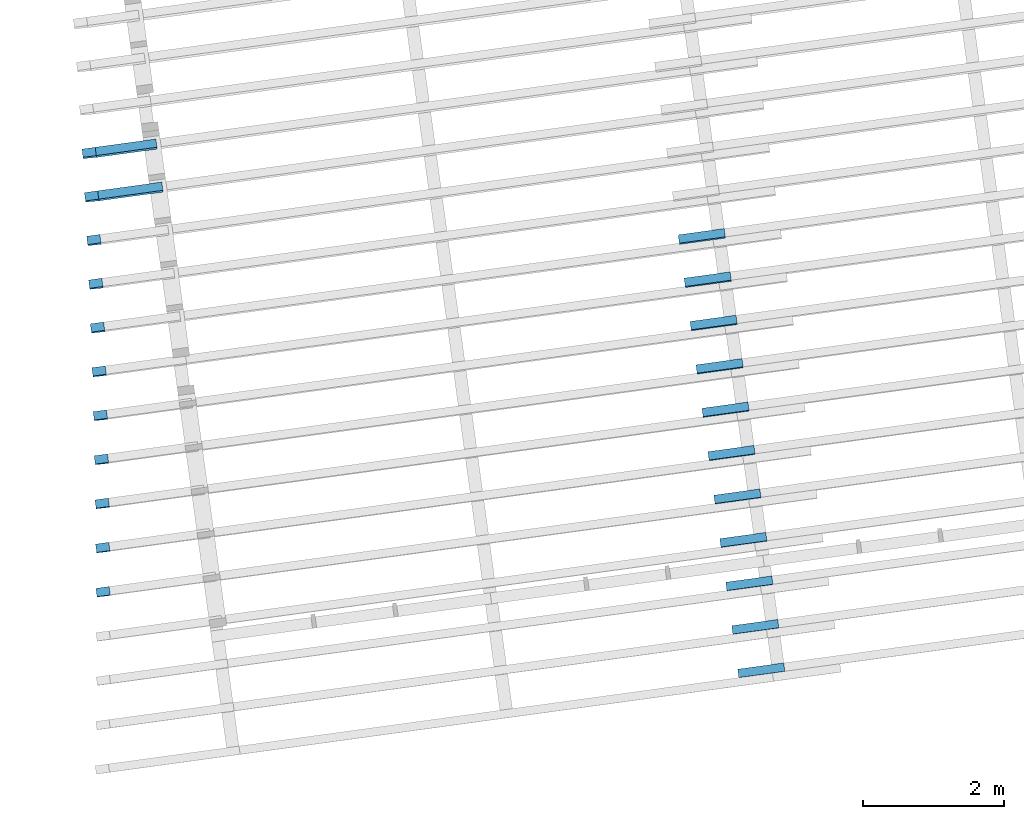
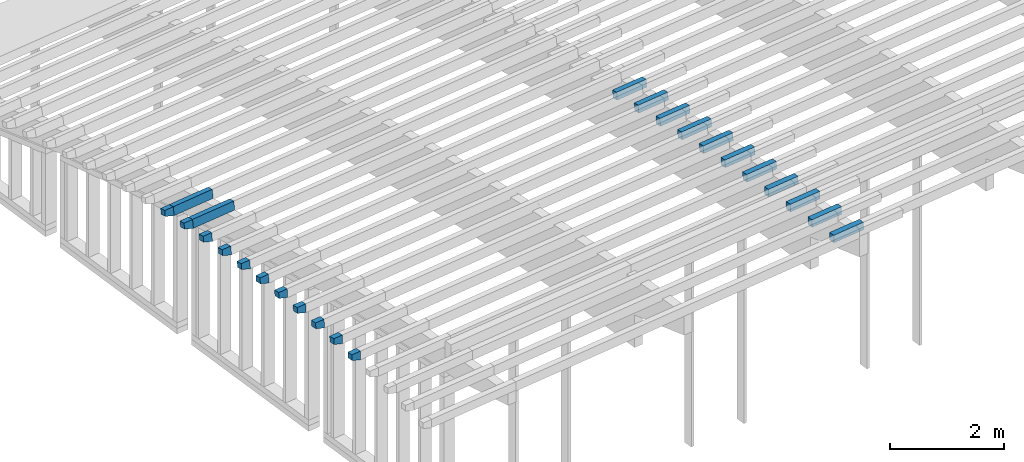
# One storey, part 14 of 18: 24 building element parts, 22 elements without a shape of their own.
"""IFC2X3 building model written with IfcOpenShell, lengths in metres."""

from ifc_helpers import new_model, entity, si_unit, converted_unit, derived_unit, money_unit, direction, frame, origin_with_axes, place, context, subcontext, project, spatial, faceted_brep, material, type_object, element, aggregate, save


model = new_model("IFC2X3")

# Units and contexts
model_context = context("Model", 3, precision=1e-05, world=origin_with_axes(), true_north=direction((0.0, 1.0)))
body_context = subcontext(model_context, "Body", "Model", "MODEL_VIEW")
ifc_project = project(units=[si_unit("LENGTHUNIT", "METRE"), si_unit("AREAUNIT", "SQUARE_METRE"), si_unit("VOLUMEUNIT", "CUBIC_METRE"), converted_unit("PLANEANGLEUNIT", "DEGREE", entity("IfcPlaneAngleMeasure", 0.0174532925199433), si_unit("PLANEANGLEUNIT", "RADIAN"), dimensions=[0, 0, 0, 0, 0, 0, 0]), money_unit("EUR"), converted_unit("TIMEUNIT", "Year", entity("IfcTimeMeasure", 31557600.0), si_unit("TIMEUNIT", "SECOND"), dimensions=[0, 0, 1, 0, 0, 0, 0]), si_unit("MASSUNIT", "GRAM", prefix="KILO"), si_unit("THERMODYNAMICTEMPERATUREUNIT", "DEGREE_CELSIUS"), si_unit("LUMINOUSINTENSITYUNIT", "LUMEN"), si_unit("ENERGYUNIT", "JOULE", prefix="MEGA"), derived_unit("THERMALCONDUCTANCEUNIT", [(si_unit("POWERUNIT", "WATT"), 1), (si_unit("LENGTHUNIT", "METRE"), -1), (si_unit("THERMODYNAMICTEMPERATUREUNIT", "KELVIN"), -1)]), derived_unit("SPECIFICHEATCAPACITYUNIT", [(si_unit("ENERGYUNIT", "JOULE"), 1), (si_unit("MASSUNIT", "GRAM", prefix="KILO"), -1), (si_unit("THERMODYNAMICTEMPERATUREUNIT", "KELVIN"), -1)]), derived_unit("MASSDENSITYUNIT", [(si_unit("MASSUNIT", "GRAM", prefix="KILO"), 1), (si_unit("VOLUMEUNIT", "CUBIC_METRE"), -1)])], contexts=[model_context])

# Site, building, storey
site_placement = place(None, origin_with_axes())
site = spatial("IfcSite", under=ifc_project, at=site_placement, Name="Gelände", CompositionType="ELEMENT")
building_placement = place(site_placement, origin_with_axes())
building = spatial("IfcBuilding", under=site, at=building_placement, Name="Gebäude", CompositionType="ELEMENT")
storey_placement = place(building_placement, frame((0.0, 0.0, 5.5), z_axis=(0.0, 0.0, 1.0), x_axis=(1.0, 0.0, 0.0)))
storey = spatial("IfcBuildingStorey", under=building, at=storey_placement, Name="OG", CompositionType="ELEMENT", Elevation=5.5)

# Beam, building element part
beam_type_1 = type_object("IfcBeamType", Name="Verschiedene Strukturen - 3 Segmente - 120 x 200 x 12890 (660+11570+660)", PredefinedType="NOTDEFINED")
beam_1_placement = place(storey_placement, frame((93.3715612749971, -147.186997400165, 4.781786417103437), z_axis=(0.0, 0.0, 1.0), x_axis=(0.1357111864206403, -0.9907484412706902, 0.0)))
beam_1 = element("IfcBeam", 1, at=beam_1_placement, inside=storey, type_object=beam_type_1, Name="Unterzug-031")
ifc_material = material(Name="Bauholz")
building_element_part_1_placement = place(beam_1_placement, origin_with_axes())
building_element_part_1 = element("IfcBuildingElementPart", 2, at=building_element_part_1_placement, material=ifc_material, Name="Bauholz", context=body_context, shape_type="Brep", body=[
    faceted_brep([(0.06008226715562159, 0.6600000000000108, 0.001439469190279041), (0.06008226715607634, 0.4819469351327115, 0.00143946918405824), (0.06006176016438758, 0.0, 0.001690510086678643), (0.0726638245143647, 0.0, -0.1545971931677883), (0.07266408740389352, 0.6600000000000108, -0.1545971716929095), (0.05980080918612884, 0.0, 0.004884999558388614), (0.05980080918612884, 0.6600000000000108, 0.004884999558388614), (-0.04677414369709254, 0.0, -0.1643538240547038), (-0.05980080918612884, 0.0, -0.004884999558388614), (-0.04677414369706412, 0.6600000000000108, -0.1643538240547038), (-0.05980080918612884, 0.6600000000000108, -0.004884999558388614)], [[[0, 1, 2, 3, 4]], [[5, 2, 1, 0, 6]], [[7, 3, 2, 5, 8]], [[4, 3, 7, 9]], [[4, 9, 10, 6, 0]], [[10, 8, 5, 6]], [[9, 7, 8, 10]]]),
])
aggregate(beam_1, [building_element_part_1])

beam_2_placement = place(storey_placement, frame((93.45616557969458, -147.8046442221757, 4.829528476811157), z_axis=(0.0, 0.0, 1.0), x_axis=(0.1357111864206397, -0.9907484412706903, 0.0)))
beam_2 = element("IfcBeam", 3, at=beam_2_placement, inside=storey, type_object=beam_type_1, Name="Unterzug-031")
building_element_part_2_placement = place(beam_2_placement, origin_with_axes())
building_element_part_2 = element("IfcBuildingElementPart", 4, at=building_element_part_2_placement, material=ifc_material, Name="Bauholz", context=body_context, shape_type="Brep", body=[
    faceted_brep([(0.07087017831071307, 0.6599999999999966, -0.1553123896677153), (0.07087017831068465, 0.4819469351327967, -0.1553123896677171), (0.07125697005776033, 0.4819469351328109, -0.1552856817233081), (0.07125697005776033, 0.6600000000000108, -0.1552856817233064), (0.05985036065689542, 0.6599999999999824, 0.004279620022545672), (0.05985009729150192, 0.0, 0.004279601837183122), (0.07087187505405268, 0.0, -0.1553407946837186), (0.07087213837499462, 0.4819469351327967, -0.1553407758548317), (0.07125893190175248, 0.4819469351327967, -0.1553131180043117), (0.07125893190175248, 0.6599999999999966, -0.1553131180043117), (-0.04843545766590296, 0.6599999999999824, -0.163871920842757), (-0.05984719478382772, 0.6599999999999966, -0.004279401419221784), (-0.0598471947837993, 0.0, -0.004279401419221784), (-0.04843545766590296, 0.0, -0.163871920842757)], [[[0, 1, 2, 3]], [[4, 5, 6, 7, 1, 0]], [[7, 8, 2, 1]], [[3, 2, 8, 9]], [[10, 11, 4, 0, 3, 9]], [[12, 5, 4, 11]], [[13, 6, 5, 12]], [[8, 7, 6, 13, 10, 9]], [[10, 13, 12, 11]]]),
])
aggregate(beam_2, [building_element_part_2])

beam_3_placement = place(storey_placement, frame((93.54083113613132, -148.4227382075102, 4.870957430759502), z_axis=(0.0, 0.0, 1.0), x_axis=(0.135711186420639, -0.9907484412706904, 0.0)))
beam_3 = element("IfcBeam", 5, at=beam_3_placement, inside=storey, type_object=beam_type_1, Name="Unterzug-031")
building_element_part_3_placement = place(beam_3_placement, origin_with_axes())
building_element_part_3 = element("IfcBuildingElementPart", 6, at=building_element_part_3_placement, material=ifc_material, Name="Bauholz", context=body_context, shape_type="Brep", body=[
    faceted_brep([(0.069375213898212, 0.6599999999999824, -0.1559693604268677), (0.06937521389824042, 0.4819469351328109, -0.1559693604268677), (0.06967847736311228, 0.4819469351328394, -0.1559513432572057), (0.0696784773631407, 0.6599999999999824, -0.1559513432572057), (0.0598906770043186, 0.6599999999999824, 0.003673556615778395), (0.05989041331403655, 0.0, 0.003673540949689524), (0.06937945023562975, 0.0, -0.1560451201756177), (0.06937971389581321, 0.4819469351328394, -0.1560451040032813), (0.06968308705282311, 0.4819469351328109, -0.1560264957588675), (0.06968308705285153, 0.6599999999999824, -0.1560264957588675), (-0.05009180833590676, 0.6599999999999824, -0.1633732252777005), (-0.05988744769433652, 0.6599999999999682, -0.003673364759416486), (-0.05988744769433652, 0.0, -0.003673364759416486), (-0.05009180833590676, 0.0, -0.1633732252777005)], [[[0, 1, 2, 3]], [[4, 5, 6, 7, 1, 0]], [[7, 8, 2, 1]], [[3, 2, 8, 9]], [[10, 11, 4, 0, 3, 9]], [[12, 5, 4, 11]], [[13, 6, 5, 12]], [[8, 7, 6, 13, 10, 9]], [[10, 13, 12, 11]]]),
])
aggregate(beam_3, [building_element_part_3])

beam_type_2 = type_object("IfcBeamType", Name="Verschiedene Strukturen - 4 Segmente - 120 x 200 x 10261 (970+7659+1442+190)", PredefinedType="NOTDEFINED")
beam_4_placement = place(storey_placement, frame((94.99560086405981, -148.3443651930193, 4.878264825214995), z_axis=(0.0, 0.0, 1.0), x_axis=(-0.1357111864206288, 0.9907484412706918, 0.0)))
beam_4 = element("IfcBeam", 7, at=beam_4_placement, inside=storey, type_object=beam_type_2, Name="Unterzug-031")
building_element_part_4_placement = place(beam_4_placement, origin_with_axes())
building_element_part_4 = element("IfcBuildingElementPart", 8, at=building_element_part_4_placement, material=ifc_material, Name="Bauholz", context=body_context, shape_type="Brep", body=[
    faceted_brep([(-0.05989438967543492, 10.26111797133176, 0.00355838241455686), (-0.0598943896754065, 10.07111797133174, 0.00355838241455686), (0.0598943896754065, 10.07111797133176, -0.00355838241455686), (0.05989438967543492, 10.26111797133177, -0.00355838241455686), (-0.06701115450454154, 10.26111797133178, -0.1162303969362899), (-0.07056953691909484, 10.07111797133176, -0.1761247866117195), (0.04921924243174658, 10.07111797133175, -0.183241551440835), (0.05277762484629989, 10.26111797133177, -0.1233471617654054)], [[[0, 1, 2, 3]], [[4, 5, 1, 0]], [[5, 6, 2, 1]], [[3, 2, 6, 7]], [[4, 0, 3, 7]], [[7, 6, 5, 4]]]),
])
aggregate(beam_4, [building_element_part_4])

beam_type_3 = type_object("IfcBeamType", Name="Verschiedene Strukturen - 4 Segmente - 120 x 200 x 10342 (970+7659+1523+190)", PredefinedType="NOTDEFINED")
beam_5_placement = place(storey_placement, frame((95.08032866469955, -148.9629135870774, 4.912074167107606), z_axis=(0.0, 0.0, 1.0), x_axis=(-0.1357111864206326, 0.9907484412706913, 0.0)))
beam_5 = element("IfcBeam", 9, at=beam_5_placement, inside=storey, type_object=beam_type_3, Name="Unterzug-031")
building_element_part_5_placement = place(beam_5_placement, origin_with_axes())
building_element_part_5 = element("IfcBuildingElementPart", 10, at=building_element_part_5_placement, material=ifc_material, Name="Bauholz", context=body_context, shape_type="Brep", body=[
    faceted_brep([(-0.05992836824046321, 10.341943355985, 0.002930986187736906), (-0.05992836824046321, 10.15194335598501, 0.002930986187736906), (0.05992836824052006, 10.15194335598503, -0.002930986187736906), (0.05992836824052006, 10.34194335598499, -0.002930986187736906), (-0.06579034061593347, 10.34194335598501, -0.1169257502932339), (-0.06872132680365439, 10.15194335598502, -0.1768541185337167), (0.05113540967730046, 10.151943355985, -0.1827160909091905), (0.05406639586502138, 10.34194335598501, -0.1227877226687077)], [[[0, 1, 2, 3]], [[4, 5, 1, 0]], [[5, 6, 2, 1]], [[3, 2, 6, 7]], [[4, 0, 3, 7]], [[7, 6, 5, 4]]]),
])
aggregate(beam_5, [building_element_part_5])

beam_type_4 = type_object("IfcBeamType", Name="Verschiedene Strukturen - 4 Segmente - 120 x 200 x 10184 (970+7659+1365+190)", PredefinedType="NOTDEFINED")
beam_6_placement = place(storey_placement, frame((94.91092517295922, -147.7261972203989, 4.837969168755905), z_axis=(0.0, 0.0, 1.0), x_axis=(-0.1357111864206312, 0.9907484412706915, 0.0)))
beam_6 = element("IfcBeam", 11, at=beam_6_placement, inside=storey, type_object=beam_type_4, Name="Unterzug-031")
building_element_part_6_placement = place(beam_6_placement, origin_with_axes())
building_element_part_6 = element("IfcBuildingElementPart", 12, at=building_element_part_6_placement, material=ifc_material, Name="Bauholz", context=body_context, shape_type="Brep", body=[
    faceted_brep([(-0.05985747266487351, 10.18378345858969, 0.004133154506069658), (-0.05985747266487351, 9.99378345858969, 0.004133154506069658), (0.05985747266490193, 9.993783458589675, -0.004133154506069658), (0.05985747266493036, 10.18378345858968, -0.004133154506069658), (-0.06812378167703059, 10.18378345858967, -0.1155817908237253), (-0.07225693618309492, 9.993783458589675, -0.1754392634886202), (0.04745800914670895, 9.99378345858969, -0.1837055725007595), (0.05159116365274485, 10.18378345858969, -0.1238480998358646)], [[[0, 1, 2, 3]], [[4, 5, 1, 0]], [[5, 6, 2, 1]], [[3, 2, 6, 7]], [[4, 0, 3, 7]], [[7, 6, 5, 4]]]),
])
aggregate(beam_6, [building_element_part_6])

beam_7_placement = place(storey_placement, frame((93.96465668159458, -151.5168420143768, 4.983247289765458), z_axis=(0.0, 0.0, 1.0), x_axis=(0.1357111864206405, -0.9907484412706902, 0.0)))
beam_7 = element("IfcBeam", 13, at=beam_7_placement, inside=storey, type_object=beam_type_1, Name="Unterzug-031")
building_element_part_7_placement = place(beam_7_placement, origin_with_axes())
building_element_part_7 = element("IfcBuildingElementPart", 14, at=building_element_part_7_placement, material=ifc_material, Name="Bauholz", context=body_context, shape_type="Brep", body=[
    faceted_brep([(0.06140154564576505, 0.6600000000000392, -0.159209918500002), (0.05981204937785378, 0.6600000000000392, 0.0005592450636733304), (0.05981204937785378, 0.0, 0.0005592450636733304), (0.06140154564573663, 0.0, -0.159209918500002), (-0.05999485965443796, 0.660000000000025, -0.0007853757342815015), (0.05999485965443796, 0.660000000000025, 0.0007853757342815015), (0.05999779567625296, 0.6600000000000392, 0.0005610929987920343), (-0.0579005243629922, 0.6600000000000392, -0.160771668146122), (0.05999779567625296, 0.0, 0.0005610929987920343), (0.05999485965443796, 0.0, 0.0007853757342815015), (-0.05999485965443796, 0.0, -0.0007853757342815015), (-0.05790052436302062, 0.0, -0.160771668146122)], [[[0, 1, 2, 3]], [[4, 5, 6, 1, 0, 7]], [[6, 8, 2, 1]], [[3, 2, 8, 9, 10, 11]], [[0, 3, 11, 7]], [[4, 10, 9, 5]], [[9, 8, 6, 5]], [[7, 11, 10, 4]]]),
])
aggregate(beam_7, [building_element_part_7])

beam_8_placement = place(storey_placement, frame((93.87995743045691, -150.8985020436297, 4.973518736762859), z_axis=(0.0, 0.0, 1.0), x_axis=(0.1357111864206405, -0.9907484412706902, 0.0)))
beam_8 = element("IfcBeam", 15, at=beam_8_placement, inside=storey, type_object=beam_type_1, Name="Unterzug-031")
building_element_part_8_placement = place(beam_8_placement, origin_with_axes())
building_element_part_8 = element("IfcBuildingElementPart", 16, at=building_element_part_8_placement, material=ifc_material, Name="Bauholz", context=body_context, shape_type="Brep", body=[
    faceted_brep([(0.06270437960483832, 0.6599999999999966, -0.1586511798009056), (0.0627043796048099, 0.4819469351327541, -0.1586511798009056), (0.06330828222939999, 0.4819469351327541, -0.1586402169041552), (0.06330828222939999, 0.6600000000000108, -0.1586402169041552), (0.05980176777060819, 0.6600000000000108, 0.001242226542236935), (0.05980176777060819, 0.0, 0.001242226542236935), (0.06270584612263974, 0.0, -0.1587319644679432), (0.06270584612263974, 0.4819469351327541, -0.1587319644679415), (0.063309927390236, 0.4819469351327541, -0.158719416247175), (0.063309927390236, 0.6600000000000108, -0.158719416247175), (-0.05666419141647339, 0.6600000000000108, -0.1612115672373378), (-0.05998705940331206, 0.6599999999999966, -0.001246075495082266), (-0.05998705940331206, 0.0, -0.001246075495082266), (-0.05666419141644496, 0.0, -0.1612115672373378)], [[[0, 1, 2, 3]], [[4, 5, 6, 7, 1, 0]], [[7, 8, 2, 1]], [[3, 2, 8, 9]], [[10, 11, 4, 0, 3, 9]], [[12, 5, 4, 11]], [[13, 6, 5, 12]], [[8, 7, 6, 13, 10, 9]], [[10, 13, 12, 11]]]),
])
aggregate(beam_8, [building_element_part_8])

beam_9_placement = place(storey_placement, frame((93.79513367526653, -150.2792531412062, 4.957376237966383), z_axis=(0.0, 0.0, 1.0), x_axis=(0.1357111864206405, -0.9907484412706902, 0.0)))
beam_9 = element("IfcBeam", 17, at=beam_9_placement, inside=storey, type_object=beam_type_1, Name="Unterzug-031")
building_element_part_9_placement = place(beam_9_placement, origin_with_axes())
building_element_part_9 = element("IfcBuildingElementPart", 18, at=building_element_part_9_placement, material=ifc_material, Name="Bauholz", context=body_context, shape_type="Brep", body=[
    faceted_brep([(0.06439894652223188, 0.6599999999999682, -0.1580543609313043), (0.06439894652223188, 0.4819469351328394, -0.1580543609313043), (0.06491240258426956, 0.4819469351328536, -0.1580394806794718), (0.06491240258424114, 0.6599999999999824, -0.1580394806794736), (0.05976491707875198, 0.6599999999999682, 0.001846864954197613), (0.05976491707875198, 0.0, 0.001846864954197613), (0.06439987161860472, 0.0, -0.158086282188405), (0.06439987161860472, 0.4819469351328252, -0.1580862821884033), (0.064913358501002, 0.4819469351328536, -0.158070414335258), (0.064913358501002, 0.6599999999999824, -0.158070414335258), (-0.05502938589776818, 0.6599999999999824, -0.1617769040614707), (-0.05997137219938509, 0.6599999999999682, -0.00185324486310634), (-0.05997137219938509, 0.0, -0.00185324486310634), (-0.0550293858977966, 0.0, -0.1617769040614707)], [[[0, 1, 2, 3]], [[4, 5, 6, 7, 1, 0]], [[7, 8, 2, 1]], [[3, 2, 8, 9]], [[10, 11, 4, 0, 3, 9]], [[12, 5, 4, 11]], [[13, 6, 5, 12]], [[8, 7, 6, 13, 10, 9]], [[10, 13, 12, 11]]]),
])
aggregate(beam_9, [building_element_part_9])

beam_type_5 = type_object("IfcBeamType", Name="Verschiedene Strukturen - 4 Segmente - 120 x 200 x 10110 (970+7659+1291+190)", PredefinedType="NOTDEFINED")
beam_10_placement = place(storey_placement, frame((94.82630850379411, -147.1084601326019, 4.791438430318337), z_axis=(0.0, 0.0, 1.0), x_axis=(-0.1357111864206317, 0.9907484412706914, 0.0)))
beam_10 = element("IfcBeam", 19, at=beam_10_placement, inside=storey, type_object=beam_type_5, Name="Unterzug-031")
building_element_part_10_placement = place(beam_10_placement, origin_with_axes())
building_element_part_10 = element("IfcBuildingElementPart", 20, at=building_element_part_10_placement, material=ifc_material, Name="Bauholz", context=body_context, shape_type="Brep", body=[
    faceted_brep([(-0.05980589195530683, 10.10993509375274, 0.004822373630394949), (-0.05980589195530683, 9.91993509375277, 0.004822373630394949), (0.05980589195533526, 9.919935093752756, -0.004822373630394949), (0.05980589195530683, 10.10993509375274, -0.004822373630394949), (-0.06945063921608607, 10.10993509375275, -0.1147894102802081), (-0.07427301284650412, 9.919935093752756, -0.1745953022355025), (0.04533877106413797, 9.919935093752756, -0.1842400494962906), (0.05016114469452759, 10.10993509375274, -0.124434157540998)], [[[0, 1, 2, 3]], [[4, 5, 1, 0]], [[5, 6, 2, 1]], [[3, 2, 6, 7]], [[4, 0, 3, 7]], [[7, 6, 5, 4]]]),
])
aggregate(beam_10, [building_element_part_10])

beam_type_6 = type_object("IfcBeamType", Name="Verschiedene Strukturen - 4 Segmente - 120 x 200 x 10040 (970+7659+1220+190)", PredefinedType="NOTDEFINED")
beam_11_placement = place(storey_placement, frame((94.74175862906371, -146.4912106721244, 4.738673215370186), z_axis=(0.0, 0.0, 1.0), x_axis=(-0.1357111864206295, 0.9907484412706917, 0.0)))
beam_11 = element("IfcBeam", 21, at=beam_11_placement, inside=storey, type_object=beam_type_6, Name="Unterzug-031")
building_element_part_11_placement = place(beam_11_placement, origin_with_axes())
building_element_part_11 = element("IfcBuildingElementPart", 22, at=building_element_part_11_placement, material=ifc_material, Name="Bauholz", context=body_context, shape_type="Brep", body=[
    faceted_brep([(-0.05976153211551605, 10.03956696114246, 0.005344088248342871), (-0.05976153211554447, 9.849566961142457, 0.005344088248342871), (0.05976153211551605, 9.849566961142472, -0.005344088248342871), (0.05976153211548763, 10.03956696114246, -0.005344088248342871), (-0.07044970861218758, 10.03956696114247, -0.1141789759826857), (-0.07579379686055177, 9.849566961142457, -0.1739405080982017), (0.04372926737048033, 9.849566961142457, -0.1846286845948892), (0.04907335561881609, 10.03956696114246, -0.1248671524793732)], [[[0, 1, 2, 3]], [[4, 5, 1, 0]], [[5, 6, 2, 1]], [[3, 2, 6, 7]], [[4, 0, 3, 7]], [[7, 6, 5, 4]]]),
])
aggregate(beam_11, [building_element_part_11])

beam_type_7 = type_object("IfcBeamType", Name="Verschiedene Strukturen - 4 Segmente - 120 x 200 x 9909 (970+7659+1090+190)", PredefinedType="NOTDEFINED")
beam_12_placement = place(storey_placement, frame((94.57289909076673, -145.2584653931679, 4.614089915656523), z_axis=(0.0, 0.0, 1.0), x_axis=(-0.135711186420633, 0.9907484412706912, 0.0)))
beam_12 = element("IfcBeam", 23, at=beam_12_placement, inside=storey, type_object=beam_type_7, Name="Unterzug-031")
building_element_part_12_placement = place(beam_12_placement, origin_with_axes())
building_element_part_12 = element("IfcBuildingElementPart", 24, at=building_element_part_12_placement, material=ifc_material, Name="Bauholz", context=body_context, shape_type="Brep", body=[
    faceted_brep([(-0.05963765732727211, 9.909241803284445, 0.006584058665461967), (-0.05963765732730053, 9.719241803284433, 0.006584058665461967), (0.05963765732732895, 9.719241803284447, -0.006584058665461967), (0.05963765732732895, 9.909241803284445, -0.006584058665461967), (-0.0728057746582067, 9.909241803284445, -0.112691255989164), (-0.07938983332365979, 9.719241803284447, -0.1723289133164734), (0.03988548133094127, 9.719241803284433, -0.1854970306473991), (0.04646953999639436, 9.909241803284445, -0.1258593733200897)], [[[0, 1, 2, 3]], [[4, 5, 1, 0]], [[5, 6, 2, 1]], [[3, 2, 6, 7]], [[4, 0, 3, 7]], [[7, 6, 5, 4]]]),
])
aggregate(beam_12, [building_element_part_12])

beam_type_8 = type_object("IfcBeamType", Name="Verschiedene Strukturen - 4 Segmente - 120 x 200 x 9973 (970+7659+1154+190)", PredefinedType="NOTDEFINED")
beam_13_placement = place(storey_placement, frame((94.65728644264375, -145.8745283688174, 4.679531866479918), z_axis=(0.0, 0.0, 1.0), x_axis=(-0.1357111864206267, 0.9907484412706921, 0.0)))
beam_13 = element("IfcBeam", 25, at=beam_13_placement, inside=storey, type_object=beam_type_8, Name="Unterzug-031")
building_element_part_13_placement = place(beam_13_placement, origin_with_axes())
building_element_part_13 = element("IfcBuildingElementPart", 26, at=building_element_part_13_placement, material=ifc_material, Name="Bauholz", context=body_context, shape_type="Brep", body=[
    faceted_brep([(-0.05970437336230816, 9.972671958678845, 0.005948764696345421), (-0.05970437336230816, 9.782671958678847, 0.005948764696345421), (0.05970437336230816, 9.782671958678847, -0.005948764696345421), (0.05970437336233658, 9.97267195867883, -0.005948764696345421), (-0.0716019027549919, 9.972671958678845, -0.1134599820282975), (-0.07755066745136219, 9.782671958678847, -0.1731643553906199), (0.04185807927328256, 9.782671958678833, -0.1850618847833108), (0.04780684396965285, 9.97267195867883, -0.1253575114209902)], [[[0, 1, 2, 3]], [[4, 5, 1, 0]], [[5, 6, 2, 1]], [[3, 2, 6, 7]], [[4, 0, 3, 7]], [[7, 6, 5, 4]]]),
])
aggregate(beam_13, [building_element_part_13])

beam_type_9 = type_object("IfcBeamType", Name="Verschiedene Strukturen - 4 Segmente - 120 x 200 x 9849 (970+7659+1030+190)", PredefinedType="NOTDEFINED")
beam_14_placement = place(storey_placement, frame((94.4886111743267, -144.6431283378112, 4.54227047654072), z_axis=(0.0, 0.0, 1.0), x_axis=(-0.1357111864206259, 0.9907484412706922, 0.0)))
beam_14 = element("IfcBeam", 27, at=beam_14_placement, inside=storey, type_object=beam_type_9, Name="Unterzug-031")
building_element_part_14_placement = place(beam_14_placement, origin_with_axes())
building_element_part_14 = element("IfcBuildingElementPart", 28, at=building_element_part_14_placement, material=ifc_material, Name="Bauholz", context=body_context, shape_type="Brep", body=[
    faceted_brep([(-0.05957045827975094, 9.849267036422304, 0.007166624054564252), (-0.05957045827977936, 9.659267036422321, 0.007166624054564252), (0.05957045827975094, 9.659267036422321, -0.007166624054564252), (0.05957045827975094, 9.849267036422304, -0.007166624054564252), (-0.07390370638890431, 9.849267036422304, -0.1119742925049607), (-0.08107033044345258, 9.659267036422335, -0.1715447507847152), (0.0380705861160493, 9.659267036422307, -0.1858779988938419), (0.04523721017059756, 9.849267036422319, -0.1263075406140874)], [[[0, 1, 2, 3]], [[4, 5, 1, 0]], [[5, 6, 2, 1]], [[3, 2, 6, 7]], [[4, 0, 3, 7]], [[7, 6, 5, 4]]]),
])
aggregate(beam_14, [building_element_part_14])

beam_type_10 = type_object("IfcBeamType", Name="Verschiedene Strukturen - 4 Segmente - 120 x 200 x 9793 (970+7659+974+190)", PredefinedType="NOTDEFINED")
beam_15_placement = place(storey_placement, frame((94.40442273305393, -144.0285174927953, 4.46423359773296), z_axis=(0.0, 0.0, 1.0), x_axis=(-0.1357111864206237, 0.9907484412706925, 0.0)))
beam_15 = element("IfcBeam", 29, at=beam_15_placement, inside=storey, type_object=beam_type_10, Name="Unterzug-031")
building_element_part_15_placement = place(beam_15_placement, origin_with_axes())
building_element_part_15 = element("IfcBuildingElementPart", 30, at=building_element_part_15_placement, material=ifc_material, Name="Bauholz", context=body_context, shape_type="Brep", body=[
    faceted_brep([(-0.05949214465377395, 9.792737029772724, 0.00779004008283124), (-0.05949214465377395, 9.602737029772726, 0.00779004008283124), (0.05949214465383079, 9.602737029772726, -0.00779004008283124), (0.05949214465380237, 9.792737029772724, -0.00779004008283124), (-0.07507222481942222, 9.792737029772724, -0.1111942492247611), (-0.08286226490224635, 9.602737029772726, -0.1706863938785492), (0.03612202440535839, 9.602737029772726, -0.1862664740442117), (0.0439120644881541, 9.79273702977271, -0.1267743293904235)], [[[0, 1, 2, 3]], [[4, 5, 1, 0]], [[5, 6, 2, 1]], [[3, 2, 6, 7]], [[4, 0, 3, 7]], [[7, 6, 5, 4]]]),
])
aggregate(beam_15, [building_element_part_15])

# Beam, building element parts
beam_type_11 = type_object("IfcBeamType", Name="Verschiedene Strukturen - 4 Segmente - 120 x 200 x 9740 (970+7659+921+190)", PredefinedType="NOTDEFINED")
beam_16_placement = place(storey_placement, frame((94.3203410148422, -143.4146857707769, 4.380047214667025), z_axis=(0.0, 0.0, 1.0), x_axis=(-0.1357111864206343, 0.9907484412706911, 0.0)))
beam_16 = element("IfcBeam", 31, at=beam_16_placement, inside=storey, type_object=beam_type_11, Name="Unterzug-031")
building_element_part_16_placement = place(beam_16_placement, origin_with_axes())
building_element_part_16 = element("IfcBuildingElementPart", 32, at=building_element_part_16_placement, material=ifc_material, Name="Bauholz", context=body_context, shape_type="Brep", body=[
    faceted_brep([(-0.05941462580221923, 8.629139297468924, 0.008360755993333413), (0.05941462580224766, 8.629139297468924, -0.008360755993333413), (0.05941462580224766, 9.549639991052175, -0.008360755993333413), (-0.05941462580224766, 9.54963999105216, 0.008360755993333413), (-0.08449689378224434, 8.629139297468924, -0.1698831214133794), (0.03433235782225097, 8.629139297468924, -0.1866046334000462), (0.03433235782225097, 9.549639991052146, -0.1866046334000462), (-0.08449689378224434, 9.549639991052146, -0.1698831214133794)], [[[0, 1, 2, 3]], [[4, 5, 1, 0]], [[1, 5, 6, 2]], [[7, 3, 2, 6]], [[4, 0, 3, 7]], [[5, 4, 7, 6]]]),
])
building_element_part_17_placement = place(beam_16_placement, origin_with_axes())
building_element_part_17 = element("IfcBuildingElementPart", 33, at=building_element_part_17_placement, material=ifc_material, Name="Bauholz", context=body_context, shape_type="Brep", body=[
    faceted_brep([(-0.05941462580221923, 9.739639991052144, 0.008360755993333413), (-0.05941462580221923, 9.549639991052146, 0.008360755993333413), (0.05941462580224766, 9.549639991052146, -0.008360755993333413), (0.05941462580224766, 9.739639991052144, -0.008360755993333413), (-0.07613613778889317, 9.739639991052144, -0.110468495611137), (-0.08449689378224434, 9.549639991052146, -0.169883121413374), (0.03433235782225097, 9.549639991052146, -0.1866046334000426), (0.04269311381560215, 9.739639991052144, -0.1271900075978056)], [[[0, 1, 2, 3]], [[4, 5, 1, 0]], [[5, 6, 2, 1]], [[3, 2, 6, 7]], [[4, 0, 3, 7]], [[7, 6, 5, 4]]]),
])
aggregate(beam_16, [building_element_part_16, building_element_part_17])

beam_type_12 = type_object("IfcBeamType", Name="Verschiedene Strukturen - 4 Segmente - 120 x 200 x 9690 (970+7659+871+190)", PredefinedType="NOTDEFINED")
beam_17_placement = place(storey_placement, frame((94.23638661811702, -142.8017835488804, 4.289462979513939), z_axis=(0.0, 0.0, 1.0), x_axis=(-0.1357111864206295, 0.9907484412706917, 0.0)))
beam_17 = element("IfcBeam", 34, at=beam_17_placement, inside=storey, type_object=beam_type_12, Name="Unterzug-031")
building_element_part_18_placement = place(beam_17_placement, origin_with_axes())
building_element_part_18 = element("IfcBuildingElementPart", 35, at=building_element_part_18_placement, material=ifc_material, Name="Bauholz", context=body_context, shape_type="Brep", body=[
    faceted_brep([(-0.0593343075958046, 9.499962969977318, 0.008912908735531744), (-0.0593343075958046, 8.629139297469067, 0.008912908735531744), (0.0593343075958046, 8.629139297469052, -0.008912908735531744), (0.0593343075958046, 9.499962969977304, -0.008912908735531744), (-0.08607303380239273, 9.499962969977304, -0.1690900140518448), (-0.08607303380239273, 8.629139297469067, -0.1690900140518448), (0.03259558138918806, 8.629139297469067, -0.1869158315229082), (0.03259558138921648, 9.499962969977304, -0.1869158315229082)], [[[0, 1, 2, 3]], [[4, 5, 1, 0]], [[1, 5, 6, 2]], [[3, 2, 6, 7]], [[7, 4, 0, 3]], [[7, 6, 5, 4]]]),
])
building_element_part_19_placement = place(beam_17_placement, origin_with_axes())
building_element_part_19 = element("IfcBuildingElementPart", 36, at=building_element_part_19_placement, material=ifc_material, Name="Bauholz", context=body_context, shape_type="Brep", body=[
    faceted_brep([(-0.05933430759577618, 9.689962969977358, 0.008912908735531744), (-0.05933430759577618, 9.49996296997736, 0.008912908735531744), (0.0593343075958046, 9.499962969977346, -0.008912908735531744), (0.0593343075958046, 9.689962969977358, -0.008912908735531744), (-0.07716012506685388, 9.689962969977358, -0.1097557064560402), (-0.08607303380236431, 9.49996296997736, -0.1690900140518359), (0.03259558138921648, 9.499962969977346, -0.1869158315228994), (0.04150849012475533, 9.689962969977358, -0.1275815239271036)], [[[0, 1, 2, 3]], [[4, 5, 1, 0]], [[5, 6, 2, 1]], [[3, 2, 6, 7]], [[4, 0, 3, 7]], [[7, 6, 5, 4]]]),
])
aggregate(beam_17, [building_element_part_18, building_element_part_19])

# Beam, building element part
beam_18_placement = place(storey_placement, frame((93.11820253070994, -145.3373725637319, 4.600733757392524), z_axis=(0.0, 0.0, 1.0), x_axis=(0.1357111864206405, -0.9907484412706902, 0.0)))
beam_18 = element("IfcBeam", 37, at=beam_18_placement, inside=storey, type_object=beam_type_1, Name="Unterzug-031")
building_element_part_20_placement = place(beam_18_placement, origin_with_axes())
building_element_part_20 = element("IfcBuildingElementPart", 38, at=building_element_part_20_placement, material=ifc_material, Name="Bauholz", context=body_context, shape_type="Brep", body=[
    faceted_brep([(-0.05962490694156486, 0.6599999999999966, -0.006698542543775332), (0.05961206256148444, 0.6600000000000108, 0.006697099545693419), (0.07716127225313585, 0.660000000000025, -0.1522616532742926), (0.07747929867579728, 0.6600000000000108, -0.1522265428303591), (0.07748768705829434, 0.6600000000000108, -0.1523012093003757), (-0.04176212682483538, 0.6599999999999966, -0.1656982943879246), (0.05961180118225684, 0.0, 0.006697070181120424), (-0.05962490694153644, 0.0, -0.006698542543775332), (0.07716958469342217, 0.4819469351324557, -0.1523369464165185), (0.07716127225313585, 0.4819469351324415, -0.1522616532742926), (0.07716932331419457, 0.0, -0.1523369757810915), (0.0774792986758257, 0.4819469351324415, -0.1522265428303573), (0.07748768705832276, 0.4819469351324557, -0.1523012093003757), (-0.04176212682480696, 0.0, -0.1656982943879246)], [[[0, 1, 2, 3, 4, 5]], [[6, 1, 0, 7]], [[8, 9, 2, 1, 6, 10]], [[9, 11, 3, 2]], [[4, 3, 11, 12]], [[4, 12, 8, 10, 13, 5]], [[5, 13, 7, 0]], [[7, 13, 10, 6]], [[12, 11, 9, 8]]]),
])
aggregate(beam_18, [building_element_part_20])

beam_19_placement = place(storey_placement, frame((93.20257109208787, -145.9532983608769, 4.667383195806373), z_axis=(0.0, 0.0, 1.0), x_axis=(0.1357111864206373, -0.9907484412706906, 0.0)))
beam_19 = element("IfcBeam", 39, at=beam_19_placement, inside=storey, type_object=beam_type_1, Name="Unterzug-031")
building_element_part_21_placement = place(beam_19_placement, origin_with_axes())
building_element_part_21 = element("IfcBuildingElementPart", 40, at=building_element_part_21_placement, material=ifc_material, Name="Bauholz", context=body_context, shape_type="Brep", body=[
    faceted_brep([(-0.05968965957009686, 0.6599999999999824, -0.00609463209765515), (0.05968605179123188, 0.6600000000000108, 0.00609426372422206), (0.07553889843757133, 0.6599999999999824, -0.153011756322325), (0.0759312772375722, 0.6599999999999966, -0.1529726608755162), (0.07594201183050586, 0.6599999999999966, -0.1530777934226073), (-0.04343730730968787, 0.6599999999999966, -0.1652670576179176), (0.05968578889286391, 0.0, 0.006094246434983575), (0.05968605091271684, 0.4819469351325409, 0.00609427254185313), (-0.05968965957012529, 0.0, -0.00609463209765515), (0.07554947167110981, 0.4819469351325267, -0.1531178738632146), (0.07553889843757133, 0.4819469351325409, -0.153011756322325), (0.0755492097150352, 0.0, -0.1531179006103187), (0.07593127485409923, 0.4819469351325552, -0.1529726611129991), (0.07594201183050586, 0.4819469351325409, -0.1530777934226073), (-0.04343730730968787, 0.0, -0.1652670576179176)], [[[0, 1, 2, 3, 4, 5]], [[6, 7, 1, 0, 8]], [[9, 10, 2, 1, 7, 6, 11]], [[10, 12, 3, 2]], [[4, 3, 12, 13]], [[14, 5, 4, 13, 9, 11]], [[8, 0, 5, 14]], [[11, 6, 8, 14]], [[13, 12, 10, 9]]]),
])
aggregate(beam_19, [building_element_part_21])

beam_20_placement = place(storey_placement, frame((93.2870268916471, -146.5698610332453, 4.727736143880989), z_axis=(0.0, 0.0, 1.0), x_axis=(0.1357111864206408, -0.9907484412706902, 0.0)))
beam_20 = element("IfcBeam", 41, at=beam_20_placement, inside=storey, type_object=beam_type_1, Name="Unterzug-031")
building_element_part_22_placement = place(beam_20_placement, origin_with_axes())
building_element_part_22 = element("IfcBuildingElementPart", 42, at=building_element_part_22_placement, material=ifc_material, Name="Bauholz", context=body_context, shape_type="Brep", body=[
    faceted_brep([(0.07399001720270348, 0.6600000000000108, -0.1537711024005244), (0.07399001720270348, 0.4819469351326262, -0.1537711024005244), (0.07437914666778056, 0.4819469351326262, -0.1537363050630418), (0.07437914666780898, 0.6600000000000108, -0.1537363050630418), (0.05974831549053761, 0.6600000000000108, 0.005490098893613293), (0.05974805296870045, 0.0, 0.005490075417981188), (0.07399899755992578, 0.0, -0.1538744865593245), (0.07399926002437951, 0.4819469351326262, -0.1538744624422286), (0.07438855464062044, 0.4819469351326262, -0.1538386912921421), (0.07438855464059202, 0.6599999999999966, -0.1538386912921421), (-0.04510803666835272, 0.6600000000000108, -0.1648188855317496), (-0.05974829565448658, 0.6600000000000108, -0.00549009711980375), (-0.05974829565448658, 0.0, -0.00549009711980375), (-0.04510803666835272, 0.0, -0.1648188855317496)], [[[0, 1, 2, 3]], [[4, 5, 6, 7, 1, 0]], [[7, 8, 2, 1]], [[3, 2, 8, 9]], [[10, 11, 4, 0, 3, 9]], [[12, 5, 4, 11]], [[13, 6, 5, 12]], [[8, 7, 6, 13, 10, 9]], [[10, 13, 12, 11]]]),
])
aggregate(beam_20, [building_element_part_22])

beam_21_placement = place(storey_placement, frame((93.71031129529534, -149.66001427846, 4.934859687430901), z_axis=(0.0, 0.0, 1.0), x_axis=(0.1357111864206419, -0.99074844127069, 0.0)))
beam_21 = element("IfcBeam", 43, at=beam_21_placement, inside=storey, type_object=beam_type_1, Name="Unterzug-031")
building_element_part_23_placement = place(beam_21_placement, origin_with_axes())
building_element_part_23 = element("IfcBuildingElementPart", 44, at=building_element_part_23_placement, material=ifc_material, Name="Bauholz", context=body_context, shape_type="Brep", body=[
    faceted_brep([(0.05994953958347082, 0.6600000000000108, 0.002460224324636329), (0.0599792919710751, 0.6600000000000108, 0.001735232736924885), (0.06612018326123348, 0.6599999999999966, -0.1573926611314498), (0.06650900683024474, 0.6599999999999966, -0.1573776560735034), (0.06651013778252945, 0.6599999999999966, -0.1574052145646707), (-0.05338894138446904, 0.6600000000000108, -0.1623256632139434), (-0.05994953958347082, 0.6600000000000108, -0.002460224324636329), (0.05995131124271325, 0.4819469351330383, 0.002460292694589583), (0.0661212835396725, 0.4819469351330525, -0.1574211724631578), (0.06612018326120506, 0.4819469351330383, -0.1573926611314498), (0.05995104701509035, 0.0, 0.002460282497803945), (0.06612101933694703, 0.0, -0.1574211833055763), (0.06650900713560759, 0.4819469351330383, -0.1573776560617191), (0.06651013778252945, 0.4819469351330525, -0.1574052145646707), (-0.05338894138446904, 0.0, -0.1623256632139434), (-0.05994953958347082, 0.0, -0.002460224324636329)], [[[0, 1, 2, 3, 4, 5, 6]], [[0, 7, 1]], [[8, 9, 2, 1, 7, 10, 11]], [[9, 12, 3, 2]], [[4, 3, 12, 13]], [[14, 5, 4, 13, 8, 11]], [[15, 6, 5, 14]], [[7, 0, 6, 15, 10]], [[13, 12, 9, 8]], [[11, 10, 15, 14]]]),
])
aggregate(beam_21, [building_element_part_23])

beam_22_placement = place(storey_placement, frame((93.62554926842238, -149.0412160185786, 4.906069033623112), z_axis=(0.0, 0.0, 1.0), x_axis=(0.1357111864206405, -0.9907484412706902, 0.0)))
beam_22 = element("IfcBeam", 45, at=beam_22_placement, inside=storey, type_object=beam_type_1, Name="Unterzug-031")
building_element_part_24_placement = place(beam_22_placement, origin_with_axes())
building_element_part_24 = element("IfcBuildingElementPart", 46, at=building_element_part_24_placement, material=ifc_material, Name="Bauholz", context=body_context, shape_type="Brep", body=[
    faceted_brep([(0.05992102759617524, 0.6599999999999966, 0.003077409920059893), (0.0599686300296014, 0.6599999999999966, 0.002150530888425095), (0.06773927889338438, 0.6599999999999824, -0.1567319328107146), (-0.05171460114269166, 0.6599999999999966, -0.1628668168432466), (-0.05992102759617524, 0.6599999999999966, -0.003077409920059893), (0.05992345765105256, 0.4819469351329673, 0.003074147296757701), (0.06773901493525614, 0.0, -0.1567319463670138), (0.05992349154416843, 0.0, 0.003074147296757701), (-0.05171460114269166, 0.0, -0.1628668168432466), (-0.05992102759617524, 0.0, -0.003077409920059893)], [[[0, 1, 2, 3, 4]], [[0, 5, 1]], [[6, 2, 1, 5, 7]], [[3, 2, 6, 8]], [[9, 4, 3, 8]], [[4, 7, 0]], [[5, 0, 7]], [[6, 7, 9, 8]], [[9, 7, 4]]]),
])
aggregate(beam_22, [building_element_part_24])

save(model, "model.ifc")
